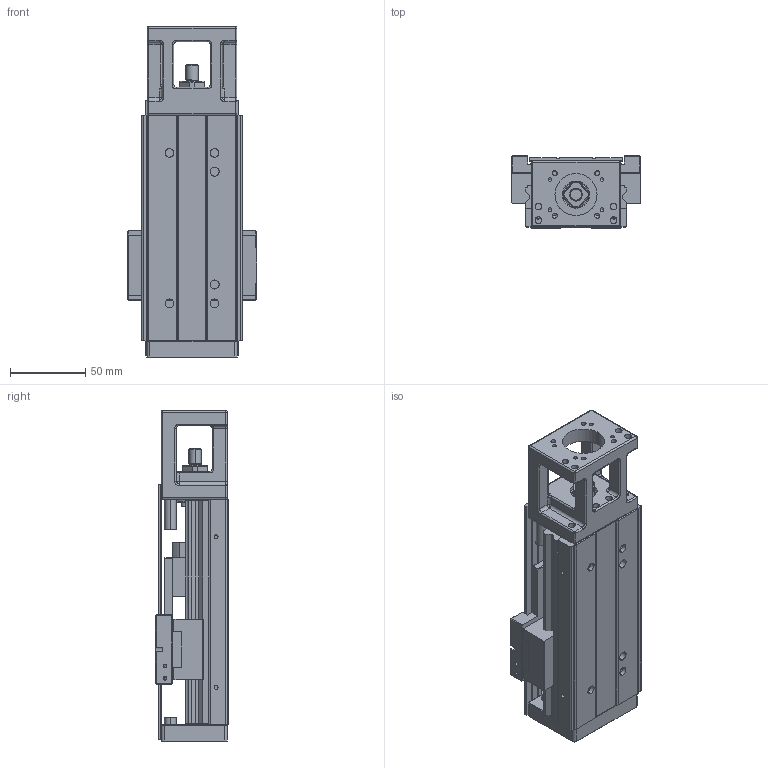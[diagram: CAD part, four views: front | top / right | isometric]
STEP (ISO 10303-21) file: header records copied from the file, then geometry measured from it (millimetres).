
FILE_DESCRIPTION (( 'STEP AP203' ), '1' );
FILE_NAME ('hkk60-150a1f0c.STEP', '2019-10-31T02:27:47', ( '微软用户' ), ( '微软中国' ), 'SwSTEP 2.0', 'SolidWorks 2016', '' );
FILE_SCHEMA (( 'CONFIG_CONTROL_DESIGN' ));
Length unit declared in the file: millimetre
Products named in the file (3): hkk60-300; hkk60賑怢; hkk60-150a1f0c
Assembly tree (2 placements, depth 2):
  hkk60-150a1f0c
    hkk60-300
    hkk60賑怢
Bounding box: 86 x 48 x 220 mm (x, y, z)
Volume: 391680.3 mm3; surface area: 145724.7 mm2
Topology: 41 solids, 45 shells, 1413 faces, 3621 edges, 2229 vertices
Faces by surface type: cylinder 520, plane 461, cone 213, sphere 76, torus 72, bspline 71
Entity records: 60666 total; most frequent: CARTESIAN_POINT 27550, ORIENTED_EDGE 6874, DIRECTION 6642, EDGE_CURVE 3437, AXIS2_PLACEMENT_3D 2479, VERTEX_POINT 2181, VECTOR 1684, LINE 1684
